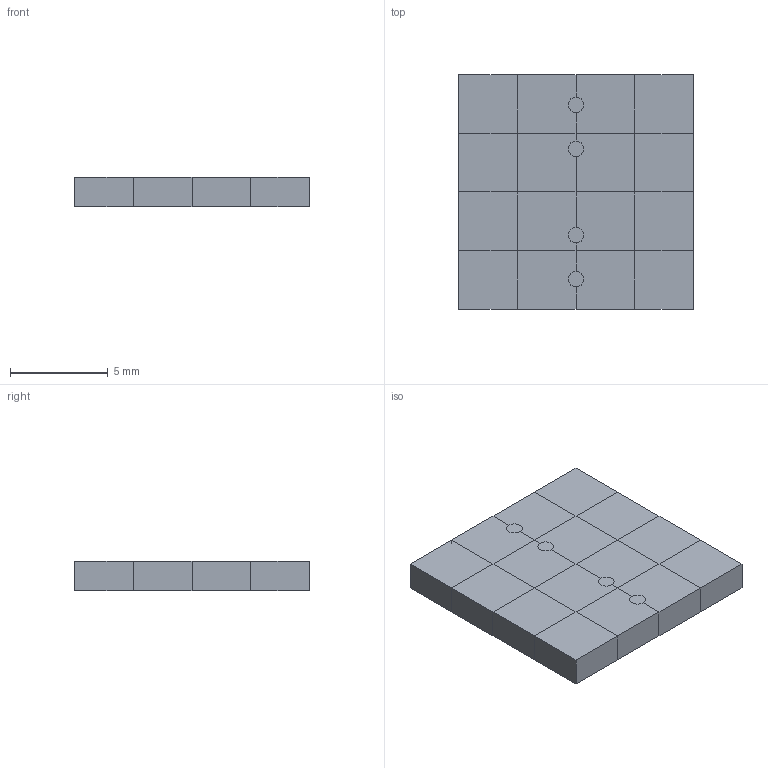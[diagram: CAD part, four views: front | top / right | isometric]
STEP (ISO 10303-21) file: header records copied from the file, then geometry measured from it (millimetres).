
FILE_DESCRIPTION(('Open CASCADE Model'),'2;1');
FILE_NAME('Open CASCADE Shape Model','2026-11-27T10:17:11',('Author'),( 'Open CASCADE'),'Open CASCADE STEP processor 7.9','Open CASCADE 7.9' ,'Unknown');
FILE_SCHEMA(('AUTOMOTIVE_DESIGN { 1 0 10303 214 1 1 1 1 }'));
Length unit declared in the file: millimetre
Products named in the file (3): manifold_N18; fluid; solid
Assembly tree (2 placements, depth 2):
  manifold_N18
    fluid
    solid
Bounding box: 12 x 12 x 1.5 mm (x, y, z)
Volume: 216 mm3; surface area: 1249.1 mm2
Topology: 2 solids, 2 shells, 694 faces, 2100 edges, 1278 vertices
Faces by surface type: plane 686, cylinder 8
Full cylindrical faces by diameter (mm): 0.8 x8
Entity records: 50330 total; most frequent: CARTESIAN_POINT 8603, DIRECTION 7646, LINE 6116, VECTOR 6116, ORIENTED_EDGE 4200, PCURVE 4200, DEFINITIONAL_REPRESENTATION 4200, EDGE_CURVE 2100
